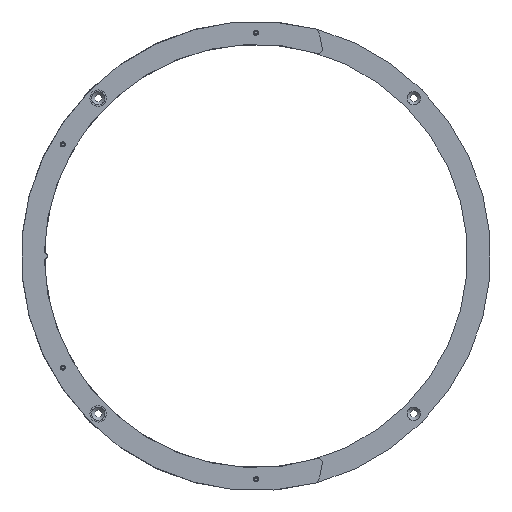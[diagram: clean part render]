
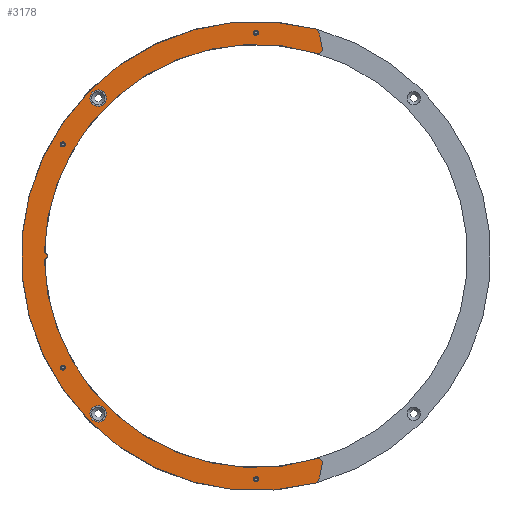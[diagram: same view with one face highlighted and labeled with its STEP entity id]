
A CAD part, front view. The second image highlights one B-rep face of the part: STEP entity #3178.
In plain terms, the highlighted planar face has unit normal (0, -1, 0).
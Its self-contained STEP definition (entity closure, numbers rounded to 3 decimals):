
#32=LINE('',#4427,#190);
#33=LINE('',#4432,#191);
#190=VECTOR('',#3809,1000.);
#191=VECTOR('',#3814,1000.);
#355=PLANE('',#3406);
#598=ORIENTED_EDGE('',*,*,#1079,.F.);
#599=ORIENTED_EDGE('',*,*,#1080,.F.);
#600=ORIENTED_EDGE('',*,*,#1056,.T.);
#601=ORIENTED_EDGE('',*,*,#1081,.T.);
#602=ORIENTED_EDGE('',*,*,#1058,.T.);
#603=ORIENTED_EDGE('',*,*,#1082,.T.);
#604=ORIENTED_EDGE('',*,*,#1083,.T.);
#605=ORIENTED_EDGE('',*,*,#1084,.T.);
#606=ORIENTED_EDGE('',*,*,#1062,.T.);
#607=ORIENTED_EDGE('',*,*,#1085,.T.);
#608=ORIENTED_EDGE('',*,*,#1086,.T.);
#609=ORIENTED_EDGE('',*,*,#1087,.T.);
#610=ORIENTED_EDGE('',*,*,#1049,.T.);
#611=ORIENTED_EDGE('',*,*,#1045,.T.);
#612=ORIENTED_EDGE('',*,*,#1037,.T.);
#613=ORIENTED_EDGE('',*,*,#1030,.T.);
#1030=EDGE_CURVE('',#1296,#1296,#1504,.T.);
#1037=EDGE_CURVE('',#1303,#1303,#1511,.T.);
#1045=EDGE_CURVE('',#1311,#1311,#1519,.T.);
#1049=EDGE_CURVE('',#1315,#1315,#1523,.T.);
#1056=EDGE_CURVE('',#1323,#1322,#1529,.T.);
#1058=EDGE_CURVE('',#1324,#1325,#1530,.T.);
#1062=EDGE_CURVE('',#1328,#1329,#1532,.T.);
#1079=EDGE_CURVE('',#1342,#1342,#1545,.T.);
#1080=EDGE_CURVE('',#1343,#1343,#1546,.T.);
#1081=EDGE_CURVE('',#1322,#1324,#1547,.T.);
#1082=EDGE_CURVE('',#1325,#1344,#1548,.T.);
#1083=EDGE_CURVE('',#1344,#1345,#32,.T.);
#1084=EDGE_CURVE('',#1345,#1328,#1549,.T.);
#1085=EDGE_CURVE('',#1329,#1346,#1550,.T.);
#1086=EDGE_CURVE('',#1346,#1347,#33,.T.);
#1087=EDGE_CURVE('',#1347,#1323,#1551,.T.);
#1296=VERTEX_POINT('',#4298);
#1303=VERTEX_POINT('',#4319);
#1311=VERTEX_POINT('',#4343);
#1315=VERTEX_POINT('',#4355);
#1322=VERTEX_POINT('',#4373);
#1323=VERTEX_POINT('',#4375);
#1324=VERTEX_POINT('',#4379);
#1325=VERTEX_POINT('',#4380);
#1328=VERTEX_POINT('',#4388);
#1329=VERTEX_POINT('',#4389);
#1342=VERTEX_POINT('',#4421);
#1343=VERTEX_POINT('',#4423);
#1344=VERTEX_POINT('',#4426);
#1345=VERTEX_POINT('',#4428);
#1346=VERTEX_POINT('',#4431);
#1347=VERTEX_POINT('',#4433);
#1504=CIRCLE('',#3338,1.23);
#1511=CIRCLE('',#3352,1.23);
#1519=CIRCLE('',#3368,1.23);
#1523=CIRCLE('',#3376,1.23);
#1529=CIRCLE('',#3387,103.);
#1530=CIRCLE('',#3389,103.);
#1532=CIRCLE('',#3392,114.2);
#1545=CIRCLE('',#3407,4.);
#1546=CIRCLE('',#3408,4.);
#1547=CIRCLE('',#3409,1.5);
#1548=CIRCLE('',#3410,2.);
#1549=CIRCLE('',#3411,4.);
#1550=CIRCLE('',#3412,4.);
#1551=CIRCLE('',#3413,2.);
#1694=EDGE_LOOP('',(#598));
#1695=EDGE_LOOP('',(#599));
#1696=EDGE_LOOP('',(#600,#601,#602,#603,#604,#605,#606,#607,#608,#609));
#1697=EDGE_LOOP('',(#610));
#1698=EDGE_LOOP('',(#611));
#1699=EDGE_LOOP('',(#612));
#1700=EDGE_LOOP('',(#613));
#1946=FACE_BOUND('',#1694,.T.);
#1947=FACE_BOUND('',#1695,.T.);
#1948=FACE_BOUND('',#1696,.T.);
#1949=FACE_BOUND('',#1697,.T.);
#1950=FACE_BOUND('',#1698,.T.);
#1951=FACE_BOUND('',#1699,.T.);
#1952=FACE_BOUND('',#1700,.T.);
#3178=ADVANCED_FACE('',(#1946,#1947,#1948,#1949,#1950,#1951,#1952),#355,
 .T.);
#3338=AXIS2_PLACEMENT_3D('',#4297,#3655,#3656);
#3352=AXIS2_PLACEMENT_3D('',#4318,#3683,#3684);
#3368=AXIS2_PLACEMENT_3D('',#4342,#3715,#3716);
#3376=AXIS2_PLACEMENT_3D('',#4354,#3731,#3732);
#3387=AXIS2_PLACEMENT_3D('',#4374,#3754,#3755);
#3389=AXIS2_PLACEMENT_3D('',#4378,#3759,#3760);
#3392=AXIS2_PLACEMENT_3D('',#4387,#3767,#3768);
#3406=AXIS2_PLACEMENT_3D('',#4419,#3799,#3800);
#3407=AXIS2_PLACEMENT_3D('',#4420,#3801,#3802);
#3408=AXIS2_PLACEMENT_3D('',#4422,#3803,#3804);
#3409=AXIS2_PLACEMENT_3D('',#4424,#3805,#3806);
#3410=AXIS2_PLACEMENT_3D('',#4425,#3807,#3808);
#3411=AXIS2_PLACEMENT_3D('',#4429,#3810,#3811);
#3412=AXIS2_PLACEMENT_3D('',#4430,#3812,#3813);
#3413=AXIS2_PLACEMENT_3D('',#4434,#3815,#3816);
#3655=DIRECTION('',(0.,1.,0.));
#3656=DIRECTION('',(0.847,0.,0.532));
#3683=DIRECTION('',(0.,1.,0.));
#3684=DIRECTION('',(0.847,0.,0.532));
#3715=DIRECTION('',(0.,1.,0.));
#3716=DIRECTION('',(0.847,0.,0.532));
#3731=DIRECTION('',(0.,1.,0.));
#3732=DIRECTION('',(0.847,0.,0.532));
#3754=DIRECTION('',(0.,1.,0.));
#3755=DIRECTION('',(1.,0.,0.));
#3759=DIRECTION('',(0.,1.,0.));
#3760=DIRECTION('',(1.,0.,0.));
#3767=DIRECTION('',(0.,-1.,0.));
#3768=DIRECTION('',(1.,0.,0.));
#3799=DIRECTION('',(0.,-1.,0.));
#3800=DIRECTION('',(-1.,0.,0.));
#3801=DIRECTION('',(0.,-1.,0.));
#3802=DIRECTION('',(-1.,0.,0.));
#3803=DIRECTION('',(0.,-1.,0.));
#3804=DIRECTION('',(-1.,0.,0.));
#3805=DIRECTION('',(0.,-1.,0.));
#3806=DIRECTION('',(-1.,0.,0.));
#3807=DIRECTION('',(0.,-1.,0.));
#3808=DIRECTION('',(-1.,0.,0.));
#3809=DIRECTION('',(-0.174,0.,0.985));
#3810=DIRECTION('',(0.,-1.,0.));
#3811=DIRECTION('',(-1.,0.,0.));
#3812=DIRECTION('',(0.,-1.,0.));
#3813=DIRECTION('',(-1.,0.,0.));
#3814=DIRECTION('',(0.174,0.,0.985));
#3815=DIRECTION('',(0.,-1.,0.));
#3816=DIRECTION('',(-1.,0.,0.));
#4297=CARTESIAN_POINT('',(-94.05,-4.,54.3));
#4298=CARTESIAN_POINT('',(-93.009,-4.,54.954));
#4318=CARTESIAN_POINT('',(-94.05,-4.,-54.3));
#4319=CARTESIAN_POINT('',(-93.009,-4.,-53.646));
#4342=CARTESIAN_POINT('',(0.,-4.,-108.6));
#4343=CARTESIAN_POINT('',(1.041,-4.,-107.946));
#4354=CARTESIAN_POINT('',(0.,-4.,108.6));
#4355=CARTESIAN_POINT('',(1.041,-4.,109.254));
#4373=CARTESIAN_POINT('',(-102.989,-4.,-1.5));
#4374=CARTESIAN_POINT('',(0.,-4.,0.));
#4375=CARTESIAN_POINT('',(29.663,-4.,-98.636));
#4378=CARTESIAN_POINT('',(0.,-4.,0.));
#4379=CARTESIAN_POINT('',(-102.989,-4.,1.5));
#4380=CARTESIAN_POINT('',(29.663,-4.,98.636));
#4387=CARTESIAN_POINT('',(0.,-4.,0.));
#4388=CARTESIAN_POINT('',(28.088,-4.,110.692));
#4389=CARTESIAN_POINT('',(28.088,-4.,-110.692));
#4419=CARTESIAN_POINT('',(41.596,-4.,-34.903));
#4420=CARTESIAN_POINT('',(-76.792,-4.,76.792));
#4421=CARTESIAN_POINT('',(-80.792,-4.,76.792));
#4422=CARTESIAN_POINT('',(-76.792,-4.,-76.792));
#4423=CARTESIAN_POINT('',(-80.792,-4.,-76.792));
#4424=CARTESIAN_POINT('',(-103.,-4.,0.));
#4425=CARTESIAN_POINT('',(30.239,-4.,100.551));
#4426=CARTESIAN_POINT('',(32.209,-4.,100.899));
#4427=CARTESIAN_POINT('',(50.,-4.,0.));
#4428=CARTESIAN_POINT('',(31.043,-4.,107.509));
#4429=CARTESIAN_POINT('',(27.104,-4.,106.815));
#4430=CARTESIAN_POINT('',(27.104,-4.,-106.815));
#4431=CARTESIAN_POINT('',(31.043,-4.,-107.509));
#4432=CARTESIAN_POINT('',(50.,-4.,0.));
#4433=CARTESIAN_POINT('',(32.209,-4.,-100.899));
#4434=CARTESIAN_POINT('',(30.239,-4.,-100.551));
